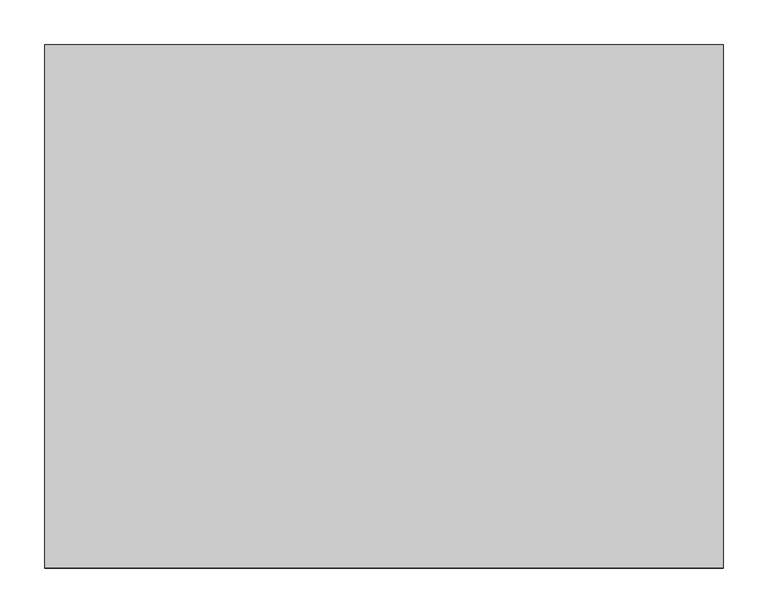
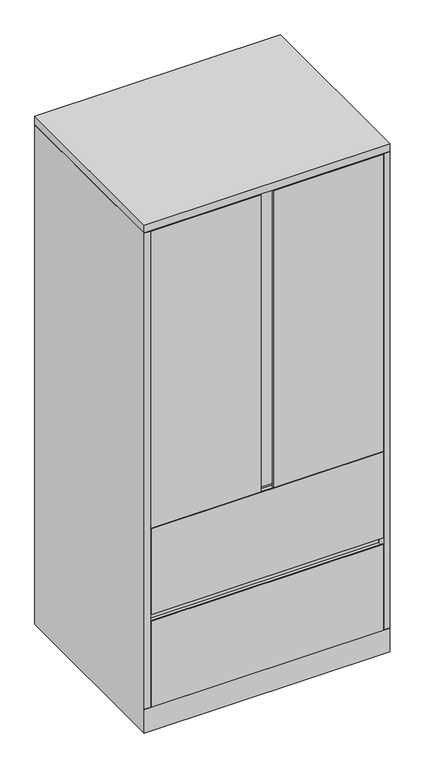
"""IFC4 building model written with IfcOpenShell, lengths in millimetres: furniture geometry, Steelcase - Universal Storage - Cabinet - Combination - Flush Steel : 65 1/2H - 2 Drawers - 23 1/8D x 30W."""

from ifc_helpers import new_model, si_unit, frame, origin, place, context, project, spatial, polyline, outline, extrude, faceted_brep, source, transform, mapped, element, save


def furniture_edf6dc3b(model_context):
    return source(origin(), model_context, "Body", "SolidModel", [
        extrude(outline(polyline([(21.8068168, -561.975866), (741.172, -561.975866), (741.172, -587.502), (400.05, -587.502), (400.05, -583.185482), (413.2189152, -583.185482), (413.2189152, -568.3258781), (361.95, -568.3258781), (361.95, -587.502), (21.8068168, -587.502), (21.8068168, -561.975866)])), frame((0.0, 0.0, 663.956), z_axis=(0.0, 0.0, 1.0), x_axis=(1.0, 0.0, 0.0)), (0.0, 0.0, 1.0), 972.82),
        extrude(outline(polyline([(762.0, 0.0), (762.0, -587.502), (0.0, -587.502), (0.0, 0.0), (762.0, 0.0)])), frame((0.0, 0.0, 1638.2999516), z_axis=(0.0, 0.0, 1.0), x_axis=(1.0, 0.0, 0.0)), (0.0, 0.0, 1.0), 25.4000484),
        extrude(outline(polyline([(-587.502, 358.7750484), (-584.3262491, 358.7750484), (-584.3262491, 349.2500484), (-561.975866, 349.2500484), (-561.975866, 381.0), (-560.4518674, 381.0), (-560.4518674, 349.2500484), (-560.4518674, 77.724), (-587.502, 77.724), (-587.502, 358.7750484)])), frame((20.8280006, 0.0, 0.0), z_axis=(1.0, 0.0, 0.0), x_axis=(0.0, 1.0, 0.0)), (0.0, 0.0, 1.0), 720.3439994),
        extrude(outline(polyline([(736.6000242, -25.4000008), (736.6000242, -560.4518674), (25.4000008, -560.4518674), (25.4000008, -25.4000008), (736.6000242, -25.4000008)])), frame((0.0, 0.0, 358.7750484), z_axis=(0.0, 0.0, 1.0), x_axis=(1.0, 0.0, 0.0)), (0.0, 0.0, 1.0), 22.2249516),
        extrude(outline(polyline([(736.6000242, -25.4000008), (736.6000242, -560.4518674), (25.4000008, -560.4518674), (25.4000008, -25.4000008), (736.6000242, -25.4000008)])), frame((0.0, 0.0, 1268.6030484), z_axis=(0.0, 0.0, 1.0), x_axis=(1.0, 0.0, 0.0)), (0.0, 0.0, 1.0), 22.2249516),
        extrude(outline(polyline([(736.6000242, -25.4000008), (736.6000242, -560.4518674), (25.4000008, -560.4518674), (25.4000008, -25.4000008), (736.6000242, -25.4000008)])), frame((0.0, 0.0, 965.3270484), z_axis=(0.0, 0.0, 1.0), x_axis=(1.0, 0.0, 0.0)), (0.0, 0.0, 1.0), 22.2249516),
        extrude(outline(polyline([(-587.502, 662.0510484), (-584.3262491, 662.0510484), (-584.3262491, 652.5260484), (-561.975866, 652.5260484), (-561.975866, 684.276), (-560.4518674, 684.276), (-560.4518674, 652.5260484), (-560.4518674, 381.0), (-587.502, 381.0), (-587.502, 662.0510484)])), frame((20.8280006, 0.0, 0.0), z_axis=(1.0, 0.0, 0.0), x_axis=(0.0, 1.0, 0.0)), (0.0, 0.0, 1.0), 720.3439994),
        extrude(outline(polyline([(736.6000242, -25.4000008), (736.6000242, -560.4518674), (25.4000008, -560.4518674), (25.4000008, -25.4000008), (736.6000242, -25.4000008)])), frame((0.0, 0.0, 662.0510484), z_axis=(0.0, 0.0, 1.0), x_axis=(1.0, 0.0, 0.0)), (0.0, 0.0, 1.0), 22.2249516),
        faceted_brep([(762.0, 0.0, 0.0), (762.0, -587.502, 0.0), (0.0, -587.502, 0.0), (0.0, 0.0, 0.0), (0.0, 0.0, 1636.776), (762.0, 0.0, 1636.776), (0.0, -587.502, 76.2), (0.0, -587.502, 77.724), (0.0, -587.502, 1636.776), (762.0, -587.502, 76.2), (762.0, -587.502, 1636.776), (762.0, -587.502, 77.724), (736.6000242, -25.4000008, 1636.776), (736.6000242, -560.4518674, 1636.776), (741.172, -560.4518674, 1636.776), (741.172, -561.9758781, 1636.776), (742.696, -561.9758781, 1636.776), (742.696, -587.502, 1636.776), (19.304, -587.502, 1636.776), (19.304, -561.975866, 1636.776), (20.8280006, -561.975866, 1636.776), (20.8280006, -560.4518674, 1636.776), (25.4000008, -560.4518674, 1636.776), (25.4000008, -25.4000008, 1636.776), (19.304, -587.502, 77.724), (19.304, -568.198, 77.724), (742.696, -587.502, 77.724), (742.696, -568.0718418, 77.724), (736.6000242, -25.4000008, 77.724), (736.6000242, -560.4518674, 77.724), (741.172, -560.4518674, 77.724), (741.172, -561.9758781, 77.724), (742.696, -561.9758781, 77.724), (19.304, -561.975866, 77.724), (20.8280006, -561.975866, 77.724), (20.8280006, -560.4518674, 77.724), (25.4000008, -560.4518674, 77.724), (25.4000008, -25.4000008, 77.724), (25.526134, -561.975866, 77.724), (736.6000242, -561.975866, 77.724)], [[[0, 1, 2, 3]], [[0, 3, 4, 5]], [[4, 3, 2, 6, 7, 8]], [[2, 1, 9, 6]], [[1, 0, 5, 10, 11, 9]], [[12, 13, 14, 15, 16, 17, 10, 5, 4, 8, 18, 19, 20, 21, 22, 23]], [[24, 7, 25]], [[11, 26, 27]], [[13, 12, 28, 29]], [[14, 13, 29, 30]], [[15, 14, 30, 31]], [[16, 15, 31, 32]], [[17, 16, 32, 27, 26]], [[10, 17, 26, 11]], [[18, 8, 7, 24]], [[19, 18, 24, 25, 33]], [[20, 19, 33, 34]], [[21, 20, 34, 35]], [[22, 21, 35, 36]], [[23, 22, 36, 37]], [[12, 23, 37, 28]], [[38, 39, 27, 32, 31, 30, 29, 28, 37, 36, 35, 34, 33, 25]], [[7, 6, 38, 25]], [[39, 38, 6, 9]], [[39, 9, 11, 27]]]),
    ])


if __name__ == "__main__":
    model = new_model("IFC4")
    model_context = context("Model", 3, world=origin())
    ifc_project = project(units=[si_unit("LENGTHUNIT", "METRE", prefix="MILLI")], contexts=[model_context])
    site = spatial("IfcSite", under=ifc_project)
    building = spatial("IfcBuilding", under=site)
    placement = place(None, origin())
    furniture_shape = furniture_edf6dc3b(model_context)
    element("IfcFurniture", 1, ObjectType="Steelcase - Universal Storage - Cabinet - Combination - Flush Steel : 65 1/2H - 2 Drawers - 23 1/8D x 30W", at=placement, inside=building, context=model_context, shape_type="MappedRepresentation", body=[
        mapped(furniture_shape, transform((0.0, 0.0, 0.0), x_axis=(1.0, 0.0, 0.0), y_axis=(0.0, 1.0, 0.0), z_axis=(0.0, 0.0, 1.0))),
    ])
    save(model, "model.ifc")
